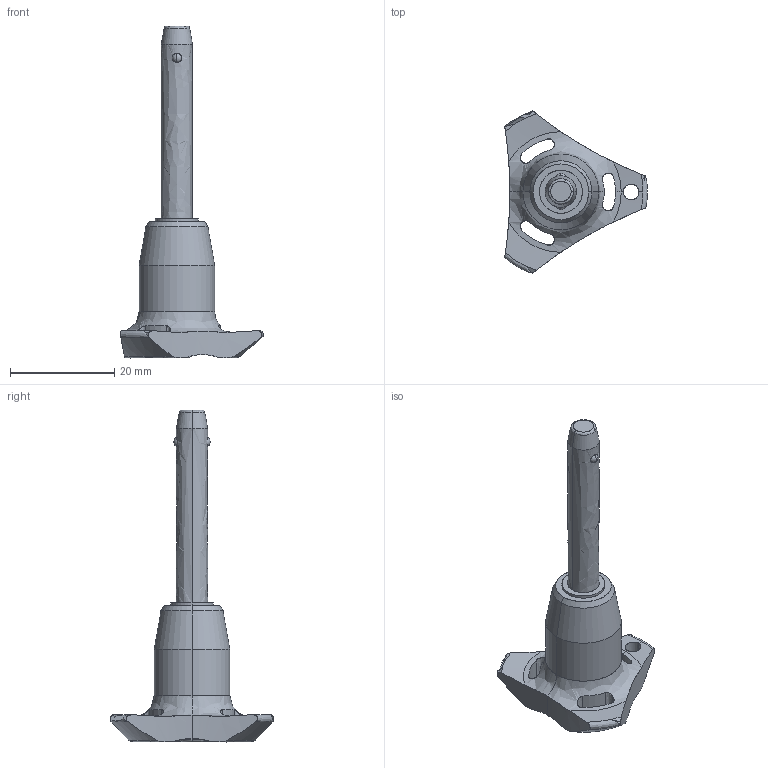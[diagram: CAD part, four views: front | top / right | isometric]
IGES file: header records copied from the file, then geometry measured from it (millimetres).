
Start section: SolidWorks IGES file using analytic representation for surfaces
Global section: file name: C:\Users\ianosborn\Desktop\QR1734_v2\QR1734_v2_20251113_IGES\QR1734.M06-030-S.igs; native system: SolidWorks 2019; preprocessor: SolidWorks 2019; author: IanOsborn; date: 251112.141707; units: millimetre
Bounding box: 27.4 x 31.31 x 63.7 mm (x, y, z)
Surface area: 3118.4 mm2 (no closed solid volume)
Topology: 0 solids, 0 shells, 66 faces, 1251 edges, 1232 vertices
Faces by surface type: revolution 50, bspline 16
